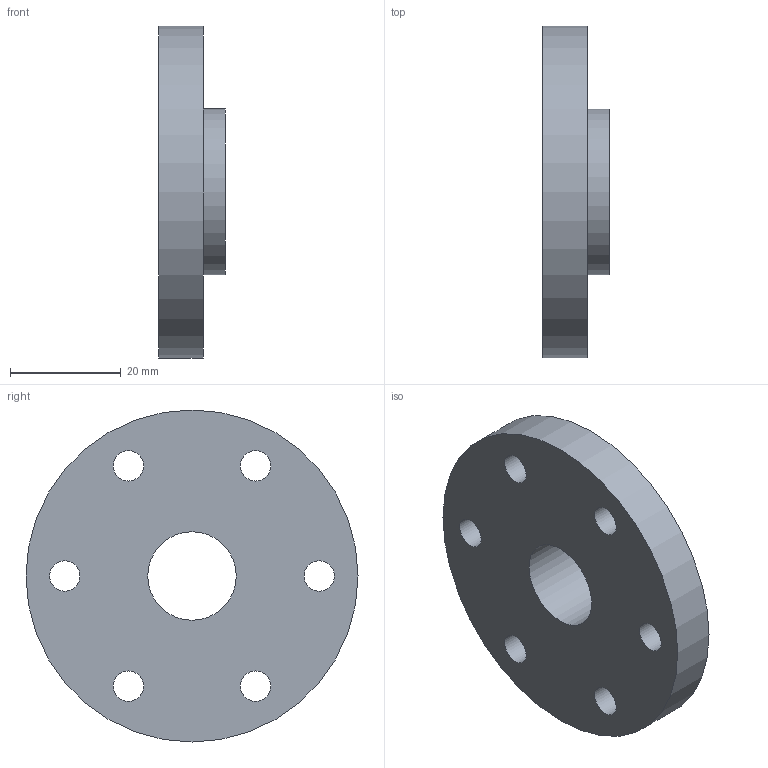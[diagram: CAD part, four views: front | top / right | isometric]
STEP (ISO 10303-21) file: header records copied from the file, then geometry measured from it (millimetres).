
FILE_DESCRIPTION(('Open CASCADE Model'),'2;1');
FILE_NAME('Open CASCADE Shape Model','2026-10-17T16:45:05',('Author'),( 'Open CASCADE'),'Open CASCADE STEP processor 8.0','build123d', 'Unknown');
FILE_SCHEMA(('AUTOMOTIVE_DESIGN { 1 0 10303 214 1 1 1 1 }'));
Length unit declared in the file: millimetre
Products named in the file (1): COMPOUND
Bounding box: 12 x 60 x 60 mm (x, y, z)
Volume: 21893.8 mm3; surface area: 8285.2 mm2
Topology: 1 solids, 1 shells, 12 faces, 27 edges, 18 vertices
Faces by surface type: cylinder 9, plane 3
Full cylindrical faces by diameter (mm): 5.5 x6, 16 x1, 30 x1, 60 x1
Entity records: 738 total; most frequent: DIRECTION 125, CARTESIAN_POINT 112, ORIENTED_EDGE 54, PCURVE 54, DEFINITIONAL_REPRESENTATION 54, LINE 45, VECTOR 45, CIRCLE 36
